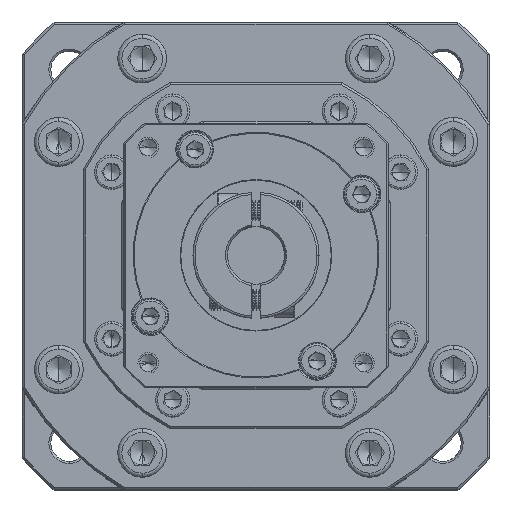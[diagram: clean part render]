
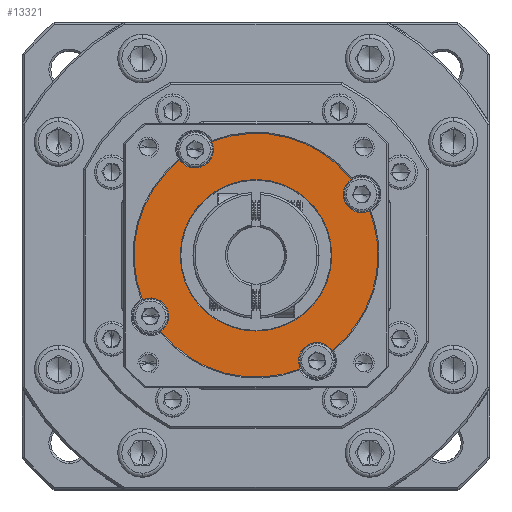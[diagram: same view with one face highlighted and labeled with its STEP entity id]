
A CAD part, top view. The second image highlights one B-rep face of the part: STEP entity #13321.
In plain terms, the highlighted planar face has unit normal (0, 0, 1).
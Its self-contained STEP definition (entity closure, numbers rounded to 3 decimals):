
#430 = DIRECTION ( 'NONE',  ( 0., 0., 1. ) ) ;
#1485 = DIRECTION ( 'NONE',  ( 1., 0., 0. ) ) ;
#2213 = ORIENTED_EDGE ( 'NONE', *, *, #69705, .F. ) ;
#4261 = EDGE_CURVE ( 'NONE', #88460, #109877, #94824, .T. ) ;
#4900 = AXIS2_PLACEMENT_3D ( 'NONE', #5698, #74405, #15650 ) ;
#5440 = EDGE_CURVE ( 'NONE', #120183, #10770, #83004, .T. ) ;
#5597 = CIRCLE ( 'NONE', #100377, 4.5 ) ;
#5698 = CARTESIAN_POINT ( 'NONE',  ( -80.294, 11.241, -11.319 ) ) ;
#6347 = EDGE_CURVE ( 'NONE', #30500, #113198, #67154, .T. ) ;
#6713 = CARTESIAN_POINT ( 'NONE',  ( -39.313, 0.261, -11.319 ) ) ;
#7106 = AXIS2_PLACEMENT_3D ( 'NONE', #113877, #55271, #123762 ) ;
#9525 = DIRECTION ( 'NONE',  ( 0., 0., -1. ) ) ;
#10603 = ORIENTED_EDGE ( 'NONE', *, *, #42821, .F. ) ;
#10770 = VERTEX_POINT ( 'NONE', #106504 ) ;
#13321 = ADVANCED_FACE ( 'NONE', ( #20592, #124848 ), #69732, .T. ) ;
#13365 = AXIS2_PLACEMENT_3D ( 'NONE', #113277, #54647, #123141 ) ;
#15650 = DIRECTION ( 'NONE',  ( 1., 0., 0. ) ) ;
#16542 = EDGE_CURVE ( 'NONE', #72742, #34195, #103488, .T. ) ;
#16635 = DIRECTION ( 'NONE',  ( 1., 0., 0. ) ) ;
#20592 = FACE_BOUND ( 'NONE', #78701, .T. ) ;
#23144 = ORIENTED_EDGE ( 'NONE', *, *, #98279, .T. ) ;
#23810 = CARTESIAN_POINT ( 'NONE',  ( -43.368, -1.691, -11.319 ) ) ;
#24971 = ORIENTED_EDGE ( 'NONE', *, *, #91699, .T. ) ;
#25257 = DIRECTION ( 'NONE',  ( 0., 0., 1. ) ) ;
#26218 = CARTESIAN_POINT ( 'NONE',  ( -65.258, 54.174, -11.319 ) ) ;
#27435 = EDGE_CURVE ( 'NONE', #120183, #34195, #42674, .T. ) ;
#28152 = AXIS2_PLACEMENT_3D ( 'NONE', #59221, #430, #69104 ) ;
#30500 = VERTEX_POINT ( 'NONE', #76483 ) ;
#31803 = CARTESIAN_POINT ( 'NONE',  ( -43.813, 0.261, -11.319 ) ) ;
#31975 = CARTESIAN_POINT ( 'NONE',  ( -77.758, 7.524, -11.319 ) ) ;
#32321 = AXIS2_PLACEMENT_3D ( 'NONE', #46271, #114784, #56161 ) ;
#34195 = VERTEX_POINT ( 'NONE', #23810 ) ;
#35543 = CARTESIAN_POINT ( 'NONE',  ( -82.245, 15.296, -11.319 ) ) ;
#35900 = AXIS2_PLACEMENT_3D ( 'NONE', #105211, #46580, #115087 ) ;
#36380 = CARTESIAN_POINT ( 'NONE',  ( -35.596, 2.797, -11.319 ) ) ;
#36580 = AXIS2_PLACEMENT_3D ( 'NONE', #57692, #126215, #67546 ) ;
#36694 = CIRCLE ( 'NONE', #105659, 30. ) ;
#39733 = DIRECTION ( 'NONE',  ( 0., 0., 1. ) ) ;
#40722 = ORIENTED_EDGE ( 'NONE', *, *, #93886, .F. ) ;
#42674 = CIRCLE ( 'NONE', #82494, 30. ) ;
#42814 = ORIENTED_EDGE ( 'NONE', *, *, #56997, .F. ) ;
#42821 = EDGE_CURVE ( 'NONE', #92462, #125273, #87265, .T. ) ;
#42879 = AXIS2_PLACEMENT_3D ( 'NONE', #68320, #9525, #78157 ) ;
#46271 = CARTESIAN_POINT ( 'NONE',  ( -54.313, 26.241, -11.319 ) ) ;
#46580 = DIRECTION ( 'NONE',  ( 0., 0., 1. ) ) ;
#48969 = DIRECTION ( 'NONE',  ( 0., 0., 1. ) ) ;
#49902 = ORIENTED_EDGE ( 'NONE', *, *, #27435, .T. ) ;
#51859 = CARTESIAN_POINT ( 'NONE',  ( -30.868, 44.959, -11.319 ) ) ;
#53665 = DIRECTION ( 'NONE',  ( 0., 0., -1. ) ) ;
#54073 = DIRECTION ( 'NONE',  ( 0., 0., 1. ) ) ;
#54138 = CIRCLE ( 'NONE', #35900, 4.5 ) ;
#54647 = DIRECTION ( 'NONE',  ( 0., 0., 1. ) ) ;
#55271 = DIRECTION ( 'NONE',  ( 0., 0., 1. ) ) ;
#55279 = DIRECTION ( 'NONE',  ( 0., 0., 1. ) ) ;
#55819 = ORIENTED_EDGE ( 'NONE', *, *, #65581, .T. ) ;
#56161 = DIRECTION ( 'NONE',  ( 1., 0., 0. ) ) ;
#56248 = EDGE_CURVE ( 'NONE', #73281, #88460, #5597, .T. ) ;
#56997 = EDGE_CURVE ( 'NONE', #82133, #72742, #83548, .T. ) ;
#57692 = CARTESIAN_POINT ( 'NONE',  ( -54.313, 26.241, -11.319 ) ) ;
#59221 = CARTESIAN_POINT ( 'NONE',  ( -80.294, 11.241, -11.319 ) ) ;
#60275 = DIRECTION ( 'NONE',  ( 0., 0., 1. ) ) ;
#60698 = ORIENTED_EDGE ( 'NONE', *, *, #6347, .T. ) ;
#61272 = CIRCLE ( 'NONE', #36580, 30. ) ;
#62218 = ORIENTED_EDGE ( 'NONE', *, *, #4261, .F. ) ;
#62667 = VERTEX_POINT ( 'NONE', #26218 ) ;
#65172 = AXIS2_PLACEMENT_3D ( 'NONE', #112252, #53665, #122114 ) ;
#65581 = EDGE_CURVE ( 'NONE', #113285, #109877, #61272, .T. ) ;
#66686 = ORIENTED_EDGE ( 'NONE', *, *, #56248, .F. ) ;
#67154 = CIRCLE ( 'NONE', #42879, 18.644 ) ;
#67546 = DIRECTION ( 'NONE',  ( 1., 0., 0. ) ) ;
#68320 = CARTESIAN_POINT ( 'NONE',  ( -54.313, 26.241, -11.319 ) ) ;
#69104 = DIRECTION ( 'NONE',  ( 1., 0., 0. ) ) ;
#69705 = EDGE_CURVE ( 'NONE', #10770, #108150, #124719, .T. ) ;
#69732 = PLANE ( 'NONE',  #84025 ) ;
#69966 = EDGE_CURVE ( 'NONE', #113198, #30500, #98471, .T. ) ;
#70974 = EDGE_LOOP ( 'NONE', ( #80229, #49902, #109744, #42814, #24971, #55819, #62218, #66686, #110981, #40722, #10603, #23144, #2213 ) ) ;
#72742 = VERTEX_POINT ( 'NONE', #31803 ) ;
#73281 = VERTEX_POINT ( 'NONE', #51859 ) ;
#74405 = DIRECTION ( 'NONE',  ( 0., 0., 1. ) ) ;
#75407 = DIRECTION ( 'NONE',  ( 0., 0., 1. ) ) ;
#76483 = CARTESIAN_POINT ( 'NONE',  ( -72.957, 26.241, -11.319 ) ) ;
#78157 = DIRECTION ( 'NONE',  ( 1., 0., 0. ) ) ;
#78701 = EDGE_LOOP ( 'NONE', ( #94783, #60698 ) ) ;
#79391 = CIRCLE ( 'NONE', #32321, 30. ) ;
#79993 = CARTESIAN_POINT ( 'NONE',  ( -26.381, 37.187, -11.319 ) ) ;
#80229 = ORIENTED_EDGE ( 'NONE', *, *, #5440, .F. ) ;
#82133 = VERTEX_POINT ( 'NONE', #36380 ) ;
#82494 = AXIS2_PLACEMENT_3D ( 'NONE', #113888, #55279, #123768 ) ;
#83004 = CIRCLE ( 'NONE', #4900, 4.5 ) ;
#83548 = CIRCLE ( 'NONE', #97175, 4.5 ) ;
#83938 = CARTESIAN_POINT ( 'NONE',  ( -69.313, 52.222, -11.319 ) ) ;
#84025 = AXIS2_PLACEMENT_3D ( 'NONE', #118937, #60275, #1485 ) ;
#86627 = CARTESIAN_POINT ( 'NONE',  ( -35.669, 26.241, -11.319 ) ) ;
#87265 = CIRCLE ( 'NONE', #122444, 4.5 ) ;
#88460 = VERTEX_POINT ( 'NONE', #91642 ) ;
#91642 = CARTESIAN_POINT ( 'NONE',  ( -32.832, 41.241, -11.319 ) ) ;
#91699 = EDGE_CURVE ( 'NONE', #82133, #113285, #111402, .T. ) ;
#92462 = VERTEX_POINT ( 'NONE', #124926 ) ;
#93714 = DIRECTION ( 'NONE',  ( 1., 0., 0. ) ) ;
#93886 = EDGE_CURVE ( 'NONE', #125273, #62667, #54138, .T. ) ;
#94248 = AXIS2_PLACEMENT_3D ( 'NONE', #6713, #75407, #16635 ) ;
#94783 = ORIENTED_EDGE ( 'NONE', *, *, #69966, .T. ) ;
#94824 = CIRCLE ( 'NONE', #7106, 4.5 ) ;
#97175 = AXIS2_PLACEMENT_3D ( 'NONE', #98314, #39733, #108180 ) ;
#98279 = EDGE_CURVE ( 'NONE', #92462, #108150, #36694, .T. ) ;
#98314 = CARTESIAN_POINT ( 'NONE',  ( -39.313, 0.261, -11.319 ) ) ;
#98471 = CIRCLE ( 'NONE', #65172, 18.644 ) ;
#100377 = AXIS2_PLACEMENT_3D ( 'NONE', #112699, #54073, #122549 ) ;
#103488 = CIRCLE ( 'NONE', #94248, 4.5 ) ;
#105211 = CARTESIAN_POINT ( 'NONE',  ( -69.313, 52.222, -11.319 ) ) ;
#105659 = AXIS2_PLACEMENT_3D ( 'NONE', #107543, #48969, #117458 ) ;
#106504 = CARTESIAN_POINT ( 'NONE',  ( -75.794, 11.241, -11.319 ) ) ;
#107272 = CARTESIAN_POINT ( 'NONE',  ( -64.813, 52.222, -11.319 ) ) ;
#107509 = CARTESIAN_POINT ( 'NONE',  ( -24.313, 26.241, -11.319 ) ) ;
#107543 = CARTESIAN_POINT ( 'NONE',  ( -54.313, 26.241, -11.319 ) ) ;
#108150 = VERTEX_POINT ( 'NONE', #35543 ) ;
#108180 = DIRECTION ( 'NONE',  ( 1., 0., 0. ) ) ;
#109744 = ORIENTED_EDGE ( 'NONE', *, *, #16542, .F. ) ;
#109877 = VERTEX_POINT ( 'NONE', #79993 ) ;
#110981 = ORIENTED_EDGE ( 'NONE', *, *, #113278, .T. ) ;
#111402 = CIRCLE ( 'NONE', #13365, 30. ) ;
#112252 = CARTESIAN_POINT ( 'NONE',  ( -54.313, 26.241, -11.319 ) ) ;
#112699 = CARTESIAN_POINT ( 'NONE',  ( -28.332, 41.241, -11.319 ) ) ;
#113198 = VERTEX_POINT ( 'NONE', #86627 ) ;
#113277 = CARTESIAN_POINT ( 'NONE',  ( -54.313, 26.241, -11.319 ) ) ;
#113278 = EDGE_CURVE ( 'NONE', #73281, #62667, #79391, .T. ) ;
#113285 = VERTEX_POINT ( 'NONE', #107509 ) ;
#113877 = CARTESIAN_POINT ( 'NONE',  ( -28.332, 41.241, -11.319 ) ) ;
#113888 = CARTESIAN_POINT ( 'NONE',  ( -54.313, 26.241, -11.319 ) ) ;
#114784 = DIRECTION ( 'NONE',  ( 0., 0., 1. ) ) ;
#115087 = DIRECTION ( 'NONE',  ( 1., 0., 0. ) ) ;
#117458 = DIRECTION ( 'NONE',  ( 1., 0., 0. ) ) ;
#118937 = CARTESIAN_POINT ( 'NONE',  ( -54.313, 26.241, -11.319 ) ) ;
#120183 = VERTEX_POINT ( 'NONE', #31975 ) ;
#122114 = DIRECTION ( 'NONE',  ( 1., 0., 0. ) ) ;
#122444 = AXIS2_PLACEMENT_3D ( 'NONE', #83938, #25257, #93714 ) ;
#122549 = DIRECTION ( 'NONE',  ( 1., 0., 0. ) ) ;
#123141 = DIRECTION ( 'NONE',  ( 1., 0., 0. ) ) ;
#123762 = DIRECTION ( 'NONE',  ( 1., 0., 0. ) ) ;
#123768 = DIRECTION ( 'NONE',  ( 1., 0., 0. ) ) ;
#124719 = CIRCLE ( 'NONE', #28152, 4.5 ) ;
#124848 = FACE_OUTER_BOUND ( 'NONE', #70974, .T. ) ;
#124926 = CARTESIAN_POINT ( 'NONE',  ( -73.03, 49.686, -11.319 ) ) ;
#125273 = VERTEX_POINT ( 'NONE', #107272 ) ;
#126215 = DIRECTION ( 'NONE',  ( 0., 0., 1. ) ) ;
